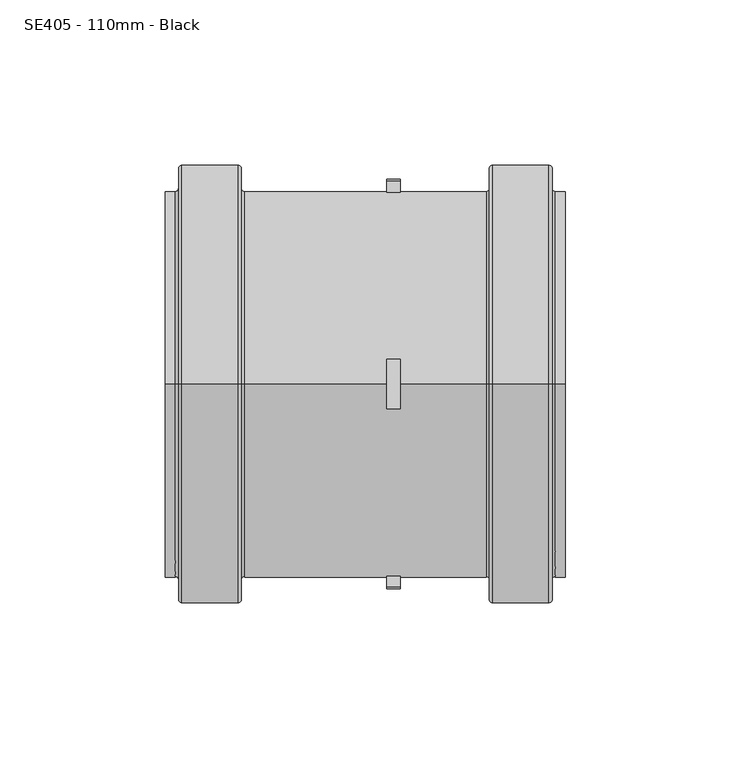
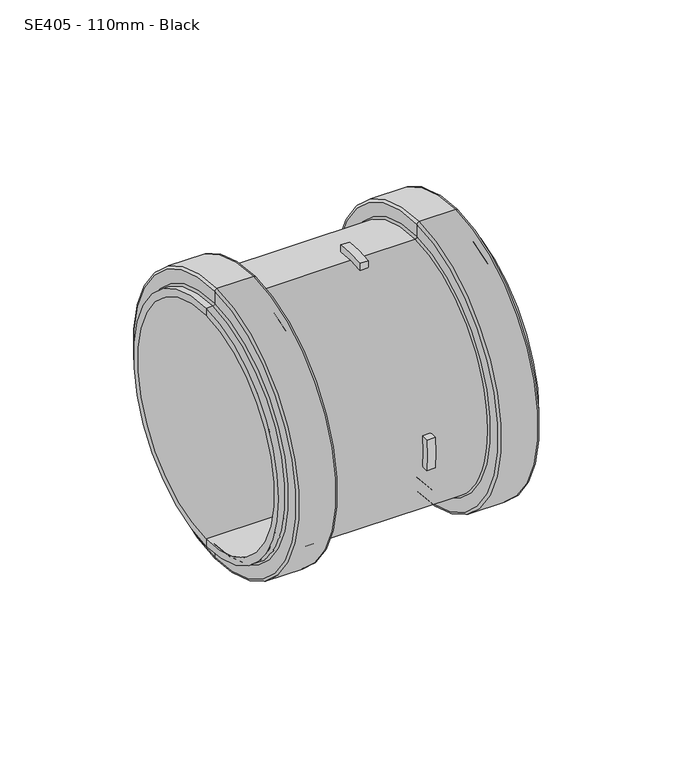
"""IFC4 building model written with IfcOpenShell, lengths in millimetres: pipe fitting geometry, MarleyPlumbingAndDrainage_PipeFitting_DoubleRingCoupling_SE305 : SE405 - 110mm - Black."""

from ifc_helpers import new_model, si_unit, point, frame, origin, place, context, project, spatial, polyline, circle_curve, ellipse_curve, trimmed, source, transform, mapped, element, save
from ifc_brep_helpers import plane_surface, cylinder_surface, revolved_surface, advanced_brep


def se405_110mm_black_57dad86f(model_context):
    return source(origin(), model_context, "Body", "AdvancedBrep", [
        advanced_brep(
        [(-51.3253818, 0.0, -58.5), (-51.3253818, 0.0, 58.5), (-8.3253818, 0.0, 58.5), (-8.3253818, 7.5, 58.0172388), (-4.3253818, 7.5, 58.0172388), (-4.3253818, 0.0, 58.5), (21.6746182, 0.0, 58.5), (21.6746182, 0.0, -58.5), (-4.3253818, 0.0, -58.5), (-4.3253818, 7.5, -58.0172388), (-8.3253818, 7.5, -58.0172388), (-8.3253818, 0.0, -58.5), (-4.3253818, 58.0172388, -7.5), (-4.3253818, 58.0172388, 7.5), (-8.3253818, 58.0172388, 7.5), (-8.3253818, 58.0172388, -7.5), (-8.3253818, -7.5, -58.0172388), (-4.3253818, -7.5, -58.0172388), (-4.3253818, -7.5, 58.0172388), (-8.3253818, -7.5, 58.0172388), (-4.3253818, -58.0172388, 7.5), (-4.3253818, -58.0172388, -7.5), (-8.3253818, -58.0172388, -7.5), (-8.3253818, -58.0172388, 7.5), (45.6746182, 0.0, -55.0), (45.6746182, 0.0, 55.0), (-75.3253818, 0.0, 55.0), (-75.3253818, 0.0, -55.0), (45.6746182, 0.0, -58.5), (45.6746182, 0.0, 58.5), (42.6746182, 0.0, -58.5), (42.6746182, 0.0, 58.5), (41.6746182, 0.0, -59.5), (41.6746182, 0.0, 59.5), (41.6746182, 0.0, -65.5), (41.6746182, 0.0, 65.5), (40.6746182, 0.0, -66.5), (40.6746182, 0.0, 66.5), (23.6746182, 0.0, -66.5), (23.6746182, 0.0, 66.5), (22.6746182, 0.0, -65.5), (22.6746182, 0.0, 65.5), (22.6746182, 0.0, -59.5), (22.6746182, 0.0, 59.5), (-52.3253818, 0.0, -59.5), (-52.3253818, 0.0, 59.5), (-52.3253818, 0.0, -65.5), (-52.3253818, 0.0, 65.5), (-53.3253818, 0.0, -66.5), (-53.3253818, 0.0, 66.5), (-70.3253818, 0.0, -66.5), (-70.3253818, 0.0, 66.5), (-71.3253818, 0.0, -65.5), (-71.3253818, 0.0, 65.5), (-71.3253818, 0.0, -59.5), (-71.3253818, 0.0, 59.5), (-72.3253818, 0.0, -58.5), (-72.3253818, 0.0, 58.5), (-75.3253818, 0.0, -58.5), (-75.3253818, 0.0, 58.5), (-4.3253818, 7.5, 61.5446992), (-4.3253818, -7.5, 61.5446992), (-4.3253818, -61.5446992, 7.5), (-4.3253818, -61.5446992, -7.5), (-4.3253818, -7.5, -61.5446992), (-4.3253818, 7.5, -61.5446992), (-4.3253818, 61.5446992, -7.5), (-4.3253818, 61.5446992, 7.5), (-8.3253818, -7.5, 61.5446992), (-8.3253818, 7.5, 61.5446992), (-8.3253818, -61.5446992, -7.5), (-8.3253818, -61.5446992, 7.5), (-8.3253818, 7.5, -61.5446992), (-8.3253818, -7.5, -61.5446992), (-8.3253818, 61.5446992, 7.5), (-8.3253818, 61.5446992, -7.5)],
        [
            (0, 1, circle_curve(frame((-51.3253818, 0.0, 0.0), z_axis=(1.0, 0.0, 0.0), x_axis=(0.0, 0.0, 1.0)), 58.5)),
            (1, 2),
            (2, 3, circle_curve(frame((-8.3253818, 0.0, 0.0), z_axis=(-1.0, 0.0, 0.0), x_axis=(0.0, 0.0, 1.0)), 58.5)),
            (3, 4),
            (4, 5, circle_curve(frame((-4.3253818, 0.0, 0.0), z_axis=(1.0, 0.0, 0.0), x_axis=(0.0, 0.0, 1.0)), 58.5)),
            (5, 6),
            (6, 7, circle_curve(frame((21.6746182, 0.0, 0.0), z_axis=(-1.0, 0.0, 0.0), x_axis=(0.0, 0.0, 1.0)), 58.5)),
            (7, 8),
            (8, 9, circle_curve(frame((-4.3253818, 0.0, 0.0), z_axis=(1.0, 0.0, 0.0), x_axis=(0.0, 0.0, 1.0)), 58.5)),
            (9, 10),
            (10, 11, circle_curve(frame((-8.3253818, 0.0, 0.0), z_axis=(-1.0, 0.0, 0.0), x_axis=(0.0, 0.0, 1.0)), 58.5)),
            (11, 0),
            (12, 13, circle_curve(frame((-4.3253818, 0.0, 0.0), z_axis=(1.0, 0.0, 0.0), x_axis=(0.0, 0.0, 1.0)), 58.5)),
            (13, 14),
            (14, 15, circle_curve(frame((-8.3253818, 0.0, 0.0), z_axis=(-1.0, 0.0, 0.0), x_axis=(0.0, 0.0, 1.0)), 58.5)),
            (15, 12),
            (1, 0, circle_curve(frame((-51.3253818, 0.0, 0.0), z_axis=(1.0, 0.0, 0.0), x_axis=(0.0, 0.0, 1.0)), 58.5)),
            (11, 16, circle_curve(frame((-8.3253818, 0.0, 0.0), z_axis=(-1.0, 0.0, 0.0), x_axis=(0.0, 0.0, 1.0)), 58.5)),
            (16, 17),
            (17, 8, circle_curve(frame((-4.3253818, 0.0, 0.0), z_axis=(1.0, 0.0, 0.0), x_axis=(0.0, 0.0, 1.0)), 58.5)),
            (7, 6, circle_curve(frame((21.6746182, 0.0, 0.0), z_axis=(-1.0, 0.0, 0.0), x_axis=(0.0, 0.0, 1.0)), 58.5)),
            (5, 18, circle_curve(frame((-4.3253818, 0.0, 0.0), z_axis=(1.0, 0.0, 0.0), x_axis=(0.0, 0.0, 1.0)), 58.5)),
            (18, 19),
            (19, 2, circle_curve(frame((-8.3253818, 0.0, 0.0), z_axis=(-1.0, 0.0, 0.0), x_axis=(0.0, 0.0, 1.0)), 58.5)),
            (20, 21, circle_curve(frame((-4.3253818, 0.0, 0.0), z_axis=(1.0, 0.0, 0.0), x_axis=(0.0, 0.0, 1.0)), 58.5)),
            (21, 22),
            (22, 23, circle_curve(frame((-8.3253818, 0.0, 0.0), z_axis=(-1.0, 0.0, 0.0), x_axis=(0.0, 0.0, 1.0)), 58.5)),
            (23, 20),
            (24, 25, circle_curve(frame((45.6746182, 0.0, 0.0), z_axis=(1.0, 0.0, 0.0), x_axis=(0.0, 0.0, 1.0)), 55.0)),
            (25, 26),
            (26, 27, circle_curve(frame((-75.3253818, 0.0, 0.0), z_axis=(-1.0, 0.0, 0.0), x_axis=(0.0, 0.0, 1.0)), 55.0)),
            (27, 24),
            (25, 24, circle_curve(frame((45.6746182, 0.0, 0.0), z_axis=(1.0, 0.0, 0.0), x_axis=(0.0, 0.0, 1.0)), 55.0)),
            (27, 26, circle_curve(frame((-75.3253818, 0.0, 0.0), z_axis=(-1.0, 0.0, 0.0), x_axis=(0.0, 0.0, 1.0)), 55.0)),
            (24, 28),
            (28, 29, circle_curve(frame((45.6746182, 0.0, 0.0), z_axis=(1.0, 0.0, 0.0), x_axis=(0.0, 0.0, 1.0)), 58.5)),
            (29, 25),
            (29, 28, circle_curve(frame((45.6746182, 0.0, 0.0), z_axis=(1.0, 0.0, 0.0), x_axis=(0.0, 0.0, 1.0)), 58.5)),
            (28, 30),
            (30, 31, circle_curve(frame((42.6746182, 0.0, 0.0), z_axis=(1.0, 0.0, 0.0), x_axis=(0.0, 0.0, 1.0)), 58.5)),
            (31, 29),
            (31, 30, circle_curve(frame((42.6746182, 0.0, 0.0), z_axis=(1.0, 0.0, 0.0), x_axis=(0.0, 0.0, 1.0)), 58.5)),
            (30, 32, circle_curve(frame((42.6746182, 0.0, -59.5), z_axis=(0.0, -1.0, 0.0), x_axis=(1.0, 0.0, 0.0)), 1.0)),
            (32, 33, circle_curve(frame((41.6746182, 0.0, 0.0), z_axis=(1.0, 0.0, 0.0), x_axis=(0.0, 0.0, 1.0)), 59.5)),
            (33, 31, circle_curve(frame((42.6746182, 0.0, 59.5), z_axis=(0.0, -1.0, 0.0), x_axis=(1.0, 0.0, 0.0)), 1.0)),
            (33, 32, circle_curve(frame((41.6746182, 0.0, 0.0), z_axis=(1.0, 0.0, 0.0), x_axis=(0.0, 0.0, 1.0)), 59.5)),
            (32, 34),
            (34, 35, circle_curve(frame((41.6746182, 0.0, 0.0), z_axis=(1.0, 0.0, 0.0), x_axis=(0.0, 0.0, 1.0)), 65.5)),
            (35, 33),
            (35, 34, circle_curve(frame((41.6746182, 0.0, 0.0), z_axis=(1.0, 0.0, 0.0), x_axis=(0.0, 0.0, 1.0)), 65.5)),
            (34, 36, circle_curve(frame((40.6746182, 0.0, -65.5), z_axis=(0.0, 1.0, 0.0), x_axis=(1.0, 0.0, 0.0)), 1.0)),
            (36, 37, circle_curve(frame((40.6746182, 0.0, 0.0), z_axis=(1.0, 0.0, 0.0), x_axis=(0.0, 0.0, 1.0)), 66.5)),
            (37, 35, circle_curve(frame((40.6746182, 0.0, 65.5), z_axis=(0.0, 1.0, 0.0), x_axis=(1.0, 0.0, 0.0)), 1.0)),
            (37, 36, circle_curve(frame((40.6746182, 0.0, 0.0), z_axis=(1.0, 0.0, 0.0), x_axis=(0.0, 0.0, 1.0)), 66.5)),
            (36, 38),
            (38, 39, circle_curve(frame((23.6746182, 0.0, 0.0), z_axis=(1.0, 0.0, 0.0), x_axis=(0.0, 0.0, 1.0)), 66.5)),
            (39, 37),
            (39, 38, circle_curve(frame((23.6746182, 0.0, 0.0), z_axis=(1.0, 0.0, 0.0), x_axis=(0.0, 0.0, 1.0)), 66.5)),
            (38, 40, circle_curve(frame((23.6746182, 0.0, -65.5), z_axis=(0.0, 1.0, 0.0), x_axis=(1.0, 0.0, 0.0)), 1.0)),
            (40, 41, circle_curve(frame((22.6746182, 0.0, 0.0), z_axis=(1.0, 0.0, 0.0), x_axis=(0.0, 0.0, 1.0)), 65.5)),
            (41, 39, circle_curve(frame((23.6746182, 0.0, 65.5), z_axis=(0.0, 1.0, 0.0), x_axis=(1.0, 0.0, 0.0)), 1.0)),
            (41, 40, circle_curve(frame((22.6746182, 0.0, 0.0), z_axis=(1.0, 0.0, 0.0), x_axis=(0.0, 0.0, 1.0)), 65.5)),
            (40, 42),
            (42, 43, circle_curve(frame((22.6746182, 0.0, 0.0), z_axis=(1.0, 0.0, 0.0), x_axis=(0.0, 0.0, 1.0)), 59.5)),
            (43, 41),
            (43, 42, circle_curve(frame((22.6746182, 0.0, 0.0), z_axis=(1.0, 0.0, 0.0), x_axis=(0.0, 0.0, 1.0)), 59.5)),
            (6, 43, circle_curve(frame((21.6746182, 0.0, 59.5), z_axis=(0.0, -1.0, 0.0), x_axis=(1.0, 0.0, 0.0)), 1.0)),
            (42, 7, circle_curve(frame((21.6746182, 0.0, -59.5), z_axis=(0.0, -1.0, 0.0), x_axis=(1.0, 0.0, 0.0)), 1.0)),
            (0, 44, circle_curve(frame((-51.3253818, 0.0, -59.5), z_axis=(0.0, -1.0, 0.0), x_axis=(1.0, 0.0, 0.0)), 1.0)),
            (44, 45, circle_curve(frame((-52.3253818, 0.0, 0.0), z_axis=(1.0, 0.0, 0.0), x_axis=(0.0, 0.0, 1.0)), 59.5)),
            (45, 1, circle_curve(frame((-51.3253818, 0.0, 59.5), z_axis=(0.0, -1.0, 0.0), x_axis=(1.0, 0.0, 0.0)), 1.0)),
            (45, 44, circle_curve(frame((-52.3253818, 0.0, 0.0), z_axis=(1.0, 0.0, 0.0), x_axis=(0.0, 0.0, 1.0)), 59.5)),
            (44, 46),
            (46, 47, circle_curve(frame((-52.3253818, 0.0, 0.0), z_axis=(1.0, 0.0, 0.0), x_axis=(0.0, 0.0, 1.0)), 65.5)),
            (47, 45),
            (47, 46, circle_curve(frame((-52.3253818, 0.0, 0.0), z_axis=(1.0, 0.0, 0.0), x_axis=(0.0, 0.0, 1.0)), 65.5)),
            (46, 48, circle_curve(frame((-53.3253818, 0.0, -65.5), z_axis=(0.0, 1.0, 0.0), x_axis=(1.0, 0.0, 0.0)), 1.0)),
            (48, 49, circle_curve(frame((-53.3253818, 0.0, 0.0), z_axis=(1.0, 0.0, 0.0), x_axis=(0.0, 0.0, 1.0)), 66.5)),
            (49, 47, circle_curve(frame((-53.3253818, 0.0, 65.5), z_axis=(0.0, 1.0, 0.0), x_axis=(1.0, 0.0, 0.0)), 1.0)),
            (49, 48, circle_curve(frame((-53.3253818, 0.0, 0.0), z_axis=(1.0, 0.0, 0.0), x_axis=(0.0, 0.0, 1.0)), 66.5)),
            (48, 50),
            (50, 51, circle_curve(frame((-70.3253818, 0.0, 0.0), z_axis=(1.0, 0.0, 0.0), x_axis=(0.0, 0.0, 1.0)), 66.5)),
            (51, 49),
            (51, 50, circle_curve(frame((-70.3253818, 0.0, 0.0), z_axis=(1.0, 0.0, 0.0), x_axis=(0.0, 0.0, 1.0)), 66.5)),
            (50, 52, circle_curve(frame((-70.3253818, 0.0, -65.5), z_axis=(0.0, 1.0, 0.0), x_axis=(1.0, 0.0, 0.0)), 1.0)),
            (52, 53, circle_curve(frame((-71.3253818, 0.0, 0.0), z_axis=(1.0, 0.0, 0.0), x_axis=(0.0, 0.0, 1.0)), 65.5)),
            (53, 51, circle_curve(frame((-70.3253818, 0.0, 65.5), z_axis=(0.0, 1.0, 0.0), x_axis=(1.0, 0.0, 0.0)), 1.0)),
            (53, 52, circle_curve(frame((-71.3253818, 0.0, 0.0), z_axis=(1.0, 0.0, 0.0), x_axis=(0.0, 0.0, 1.0)), 65.5)),
            (52, 54),
            (54, 55, circle_curve(frame((-71.3253818, 0.0, 0.0), z_axis=(1.0, 0.0, 0.0), x_axis=(0.0, 0.0, 1.0)), 59.5)),
            (55, 53),
            (55, 54, circle_curve(frame((-71.3253818, 0.0, 0.0), z_axis=(1.0, 0.0, 0.0), x_axis=(0.0, 0.0, 1.0)), 59.5)),
            (54, 56, circle_curve(frame((-72.3253818, 0.0, -59.5), z_axis=(0.0, -1.0, 0.0), x_axis=(1.0, 0.0, 0.0)), 1.0)),
            (56, 57, circle_curve(frame((-72.3253818, 0.0, 0.0), z_axis=(1.0, 0.0, 0.0), x_axis=(0.0, 0.0, 1.0)), 58.5)),
            (57, 55, circle_curve(frame((-72.3253818, 0.0, 59.5), z_axis=(0.0, -1.0, 0.0), x_axis=(1.0, 0.0, 0.0)), 1.0)),
            (57, 56, circle_curve(frame((-72.3253818, 0.0, 0.0), z_axis=(1.0, 0.0, 0.0), x_axis=(0.0, 0.0, 1.0)), 58.5)),
            (56, 58),
            (58, 59, circle_curve(frame((-75.3253818, 0.0, 0.0), z_axis=(1.0, 0.0, 0.0), x_axis=(0.0, 0.0, 1.0)), 58.5)),
            (59, 57),
            (59, 58, circle_curve(frame((-75.3253818, 0.0, 0.0), z_axis=(1.0, 0.0, 0.0), x_axis=(0.0, 0.0, 1.0)), 58.5)),
            (26, 59),
            (58, 27),
            (4, 60),
            (60, 61, circle_curve(frame((-4.3253818, 0.0, 0.0), z_axis=(1.0, 0.0, 0.0), x_axis=(0.0, 1.0, 0.0)), 62.0)),
            (61, 18),
            (20, 62),
            (62, 63, circle_curve(frame((-4.3253818, 0.0, 0.0), z_axis=(1.0, 0.0, 0.0), x_axis=(0.0, 1.0, 0.0)), 62.0)),
            (63, 21),
            (17, 64),
            (64, 65, circle_curve(frame((-4.3253818, 0.0, 0.0), z_axis=(1.0, 0.0, 0.0), x_axis=(0.0, 1.0, 0.0)), 62.0)),
            (65, 9),
            (12, 66),
            (66, 67, circle_curve(frame((-4.3253818, 0.0, 0.0), z_axis=(1.0, 0.0, 0.0), x_axis=(0.0, 1.0, 0.0)), 62.0)),
            (67, 13),
            (19, 68),
            (68, 69, circle_curve(frame((-8.3253818, 0.0, 0.0), z_axis=(-1.0, 0.0, 0.0), x_axis=(0.0, 1.0, 0.0)), 62.0)),
            (69, 3),
            (22, 70),
            (70, 71, circle_curve(frame((-8.3253818, 0.0, 0.0), z_axis=(-1.0, 0.0, 0.0), x_axis=(0.0, 1.0, 0.0)), 62.0)),
            (71, 23),
            (10, 72),
            (72, 73, circle_curve(frame((-8.3253818, 0.0, 0.0), z_axis=(-1.0, 0.0, 0.0), x_axis=(0.0, 1.0, 0.0)), 62.0)),
            (73, 16),
            (14, 74),
            (74, 75, circle_curve(frame((-8.3253818, 0.0, 0.0), z_axis=(-1.0, 0.0, 0.0), x_axis=(0.0, 1.0, 0.0)), 62.0)),
            (75, 15),
            (69, 60),
            (68, 61),
            (71, 62),
            (70, 63),
            (73, 64),
            (72, 65),
            (75, 66),
            (74, 67),
        ],
        [
            cylinder_surface(frame((-1213.2325039, 0.0, 0.0), z_axis=(-1.0, 0.0, 0.0), x_axis=(0.0, 0.0, 1.0)), 58.5),
            revolved_surface(polyline([(-75.32538180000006, 0.0, 55.0), (45.67461819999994, 0.0, 55.0)]), (-1213.2325039, 0.0, 0.0), (-1.0, 0.0, 0.0)),
            plane_surface(frame((45.6746182, 0.0, 0.0), z_axis=(1.0, 0.0, 0.0), x_axis=(0.0, 0.0, 1.0))),
            revolved_surface(trimmed(ellipse_curve(frame((42.6746182, 0.0, 59.5), z_axis=(0.0, 1.0, 0.0), x_axis=(1.0, 0.0, 0.0)), 1.0, 1.0), [point((42.6746182, 0.0, 58.5))], [point((41.6746182, 0.0, 59.5))], True, "CARTESIAN"), (-1213.2325039, 0.0, 0.0), (-1.0, 0.0, 0.0)),
            plane_surface(frame((41.6746182, 0.0, 0.0), z_axis=(1.0, 0.0, 0.0), x_axis=(0.0, 0.0, 1.0))),
            revolved_surface(trimmed(ellipse_curve(frame((40.6746182, 0.0, 65.5), z_axis=(0.0, -1.0, 0.0), x_axis=(1.0, 0.0, 0.0)), 1.0, 1.0), [point((41.6746182, 0.0, 65.5))], [point((40.6746182, 0.0, 66.5))], True, "CARTESIAN"), (-1213.2325039, 0.0, 0.0), (-1.0, 0.0, 0.0)),
            cylinder_surface(frame((-1213.2325039, 0.0, 0.0), z_axis=(-1.0, 0.0, 0.0), x_axis=(0.0, 0.0, 1.0)), 66.5),
            revolved_surface(trimmed(ellipse_curve(frame((23.6746182, 0.0, 65.5), z_axis=(0.0, -1.0, 0.0), x_axis=(1.0, 0.0, 0.0)), 1.0, 1.0), [point((23.6746182, 0.0, 66.5))], [point((22.6746182, 0.0, 65.5))], True, "CARTESIAN"), (-1213.2325039, 0.0, 0.0), (-1.0, 0.0, 0.0)),
            plane_surface(frame((22.6746182, 0.0, 0.0), z_axis=(-1.0, 0.0, 0.0), x_axis=(0.0, 0.0, 1.0))),
            revolved_surface(trimmed(ellipse_curve(frame((21.6746182, 0.0, 59.5), z_axis=(0.0, 1.0, 0.0), x_axis=(1.0, 0.0, 0.0)), 1.0, 1.0), [point((22.6746182, 0.0, 59.5))], [point((21.6746182, 0.0, 58.5))], True, "CARTESIAN"), (-1213.2325039, 0.0, 0.0), (-1.0, 0.0, 0.0)),
            revolved_surface(trimmed(ellipse_curve(frame((-51.3253818, 0.0, 59.5), z_axis=(0.0, 1.0, 0.0), x_axis=(1.0, 0.0, 0.0)), 1.0, 1.0), [point((-51.3253818, 0.0, 58.5))], [point((-52.3253818, 0.0, 59.5))], True, "CARTESIAN"), (-1213.2325039, 0.0, 0.0), (-1.0, 0.0, 0.0)),
            plane_surface(frame((-52.3253818, 0.0, 0.0), z_axis=(1.0, 0.0, 0.0), x_axis=(0.0, 0.0, 1.0))),
            revolved_surface(trimmed(ellipse_curve(frame((-53.3253818, 0.0, 65.5), z_axis=(0.0, -1.0, 0.0), x_axis=(1.0, 0.0, 0.0)), 1.0, 1.0), [point((-52.3253818, 0.0, 65.5))], [point((-53.3253818, 0.0, 66.5))], True, "CARTESIAN"), (-1213.2325039, 0.0, 0.0), (-1.0, 0.0, 0.0)),
            revolved_surface(trimmed(ellipse_curve(frame((-70.3253818, 0.0, 65.5), z_axis=(0.0, -1.0, 0.0), x_axis=(1.0, 0.0, 0.0)), 1.0, 1.0), [point((-70.3253818, 0.0, 66.5))], [point((-71.3253818, 0.0, 65.5))], True, "CARTESIAN"), (-1213.2325039, 0.0, 0.0), (-1.0, 0.0, 0.0)),
            plane_surface(frame((-71.3253818, 0.0, 0.0), z_axis=(-1.0, 0.0, 0.0), x_axis=(0.0, 0.0, 1.0))),
            revolved_surface(trimmed(ellipse_curve(frame((-72.3253818, 0.0, 59.5), z_axis=(0.0, 1.0, 0.0), x_axis=(1.0, 0.0, 0.0)), 1.0, 1.0), [point((-71.3253818, 0.0, 59.5))], [point((-72.3253818, 0.0, 58.5))], True, "CARTESIAN"), (-1213.2325039, 0.0, 0.0), (-1.0, 0.0, 0.0)),
            plane_surface(frame((-75.3253818, 0.0, 0.0), z_axis=(-1.0, 0.0, 0.0), x_axis=(0.0, 0.0, 1.0))),
            plane_surface(frame((-4.3253818, 58.5, 0.0), z_axis=(1.0, 0.0, 0.0), x_axis=(0.0, 0.0, -1.0))),
            plane_surface(frame((-8.3253818, 58.5, 0.0), z_axis=(-1.0, 0.0, 0.0), x_axis=(0.0, 0.0, 1.0))),
            plane_surface(frame((-4.3253818, 7.5, 58.0172388), z_axis=(0.0, 1.0, 0.0), x_axis=(-1.0, 0.0, 0.0))),
            cylinder_surface(frame((-8.3253818, 0.0, 0.0), z_axis=(1.0, 0.0, 0.0), x_axis=(0.0, 1.0, 0.0)), 62.0),
            plane_surface(frame((-4.3253818, -7.5, 61.5446992), z_axis=(0.0, -1.0, 0.0), x_axis=(-1.0, 0.0, 0.0))),
            plane_surface(frame((-4.3253818, -58.0172388, 7.5), z_axis=(0.0, 0.0, 1.0), x_axis=(-1.0, 0.0, 0.0))),
            cylinder_surface(frame((-14.8253818, 0.0, 0.0), z_axis=(1.0, 0.0, 0.0), x_axis=(0.0, 1.0, 0.0)), 62.0),
            plane_surface(frame((-4.3253818, -61.5446992, -7.5), z_axis=(0.0, 0.0, -1.0), x_axis=(-1.0, 0.0, 0.0))),
            plane_surface(frame((-4.3253818, -7.5, -58.0172388), z_axis=(0.0, -1.0, 0.0), x_axis=(-1.0, 0.0, 0.0))),
            plane_surface(frame((-4.3253818, 7.5, -61.5446992), z_axis=(0.0, 1.0, 0.0), x_axis=(-1.0, 0.0, 0.0))),
            plane_surface(frame((-4.3253818, 58.0172388, -7.5), z_axis=(0.0, 0.0, -1.0), x_axis=(-1.0, 0.0, 0.0))),
            plane_surface(frame((-4.3253818, 61.5446992, 7.5), z_axis=(0.0, 0.0, 1.0), x_axis=(-1.0, 0.0, 0.0))),
        ],
        [
            (0, [[1, 2, 3, 4, 5, 6, 7, 8, 9, 10, 11, 12], [13, 14, 15, 16]]),
            (0, [[17, -12, 18, 19, 20, -8, 21, -6, 22, 23, 24, -2], [25, 26, 27, 28]]),
            (1, [[29, 30, 31, 32]]),
            (1, [[-30, 33, -32, 34]]),
            (2, [[-29, 35, 36, 37]]),
            (2, [[-33, -37, 38, -35]]),
            (0, [[-36, 39, 40, 41]]),
            (0, [[-38, -41, 42, -39]]),
            (3, [[-40, 43, 44, 45]]),
            (3, [[-42, -45, 46, -43]]),
            (4, [[-44, 47, 48, 49]]),
            (4, [[-46, -49, 50, -47]]),
            (5, [[-48, 51, 52, 53]]),
            (5, [[-50, -53, 54, -51]]),
            (6, [[-52, 55, 56, 57]]),
            (6, [[-54, -57, 58, -55]]),
            (7, [[-56, 59, 60, 61]]),
            (7, [[-58, -61, 62, -59]]),
            (8, [[-60, 63, 64, 65]]),
            (8, [[-62, -65, 66, -63]]),
            (9, [[-7, 67, -64, 68]]),
            (9, [[-21, -68, -66, -67]]),
            (10, [[-1, 69, 70, 71]]),
            (10, [[-17, -71, 72, -69]]),
            (11, [[-70, 73, 74, 75]]),
            (11, [[-72, -75, 76, -73]]),
            (12, [[-74, 77, 78, 79]]),
            (12, [[-76, -79, 80, -77]]),
            (6, [[-78, 81, 82, 83]]),
            (6, [[-80, -83, 84, -81]]),
            (13, [[-82, 85, 86, 87]]),
            (13, [[-84, -87, 88, -85]]),
            (14, [[-86, 89, 90, 91]]),
            (14, [[-88, -91, 92, -89]]),
            (15, [[-90, 93, 94, 95]]),
            (15, [[-92, -95, 96, -93]]),
            (0, [[-94, 97, 98, 99]]),
            (0, [[-96, -99, 100, -97]]),
            (16, [[-31, 101, -98, 102]]),
            (16, [[-34, -102, -100, -101]]),
            (17, [[103, 104, 105, -22, -5]]),
            (17, [[106, 107, 108, -25]]),
            (17, [[109, 110, 111, -9, -20]]),
            (17, [[112, 113, 114, -13]]),
            (18, [[115, 116, 117, -3, -24]]),
            (18, [[118, 119, 120, -27]]),
            (18, [[121, 122, 123, -18, -11]]),
            (18, [[124, 125, 126, -15]]),
            (19, [[-103, -4, -117, 127]]),
            (20, [[-104, -127, -116, 128]]),
            (21, [[-105, -128, -115, -23]]),
            (22, [[-106, -28, -120, 129]]),
            (23, [[-107, -129, -119, 130]]),
            (24, [[-108, -130, -118, -26]]),
            (25, [[-109, -19, -123, 131]]),
            (23, [[-110, -131, -122, 132]]),
            (26, [[-111, -132, -121, -10]]),
            (27, [[-112, -16, -126, 133]]),
            (23, [[-113, -133, -125, 134]]),
            (28, [[-114, -134, -124, -14]]),
        ],
    ),
    ])


if __name__ == "__main__":
    model = new_model("IFC4")
    model_context = context("Model", 3, world=origin())
    ifc_project = project(units=[si_unit("LENGTHUNIT", "METRE", prefix="MILLI")], contexts=[model_context])
    site = spatial("IfcSite", under=ifc_project)
    building = spatial("IfcBuilding", under=site)
    placement = place(None, origin())
    se405_110mm_black_shape = se405_110mm_black_57dad86f(model_context)
    element("IfcPipeFitting", 1, ObjectType="MarleyPlumbingAndDrainage_PipeFitting_DoubleRingCoupling_SE305 : SE405 - 110mm - Black", at=placement, inside=building, context=model_context, shape_type="MappedRepresentation", body=[
        mapped(se405_110mm_black_shape, transform((0.0, 0.0, 0.0), x_axis=(1.0, 0.0, 0.0), y_axis=(0.0, 1.0, 0.0), z_axis=(0.0, 0.0, 1.0))),
    ])
    save(model, "model.ifc")
